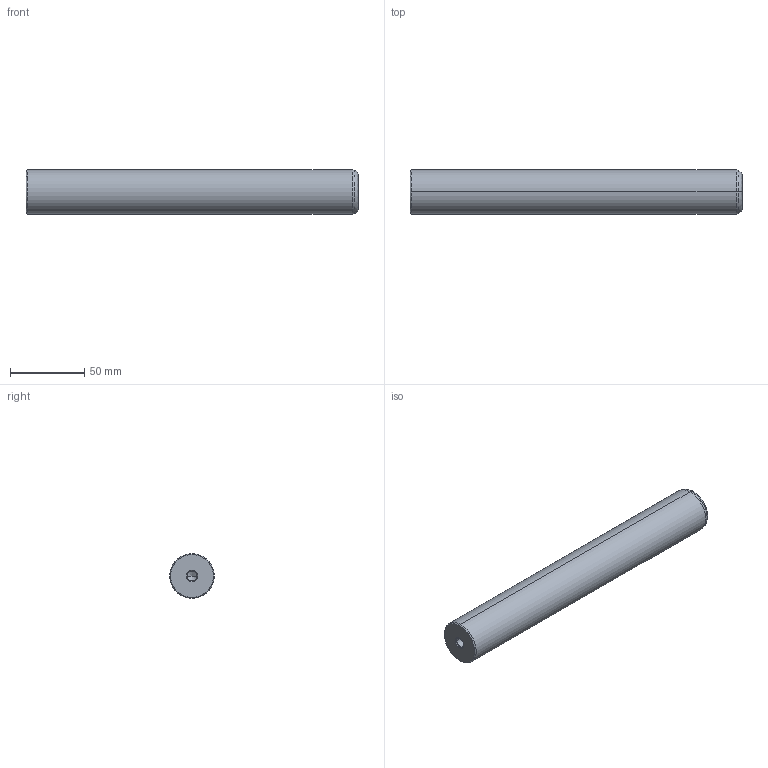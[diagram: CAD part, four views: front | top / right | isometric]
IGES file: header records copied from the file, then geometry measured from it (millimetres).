
Start section: START RECORD GO HERE.
Global section: file name: 720-30x224.igs; native system: DASSAULT SYSTEMES CATIA V5 R20 - www.3ds.com; preprocessor: CATIA Version 5 Release 20 ; author: Utente; organization: NB04-ASUS; date: 20210101.133122; units: millimetre
Bounding box: 224 x 30 x 30 mm (x, y, z)
Surface area: 23322.2 mm2 (no closed solid volume)
Topology: 0 solids, 0 shells, 22 faces, 108 edges, 104 vertices
Faces by surface type: revolution 20, plane 2
